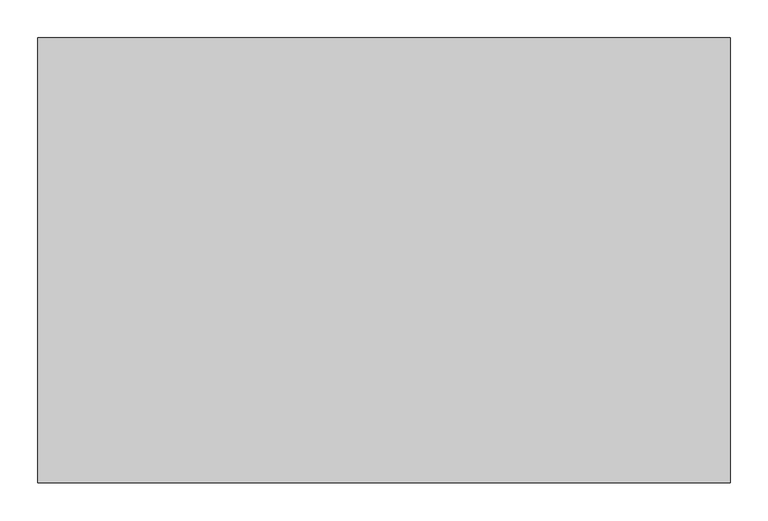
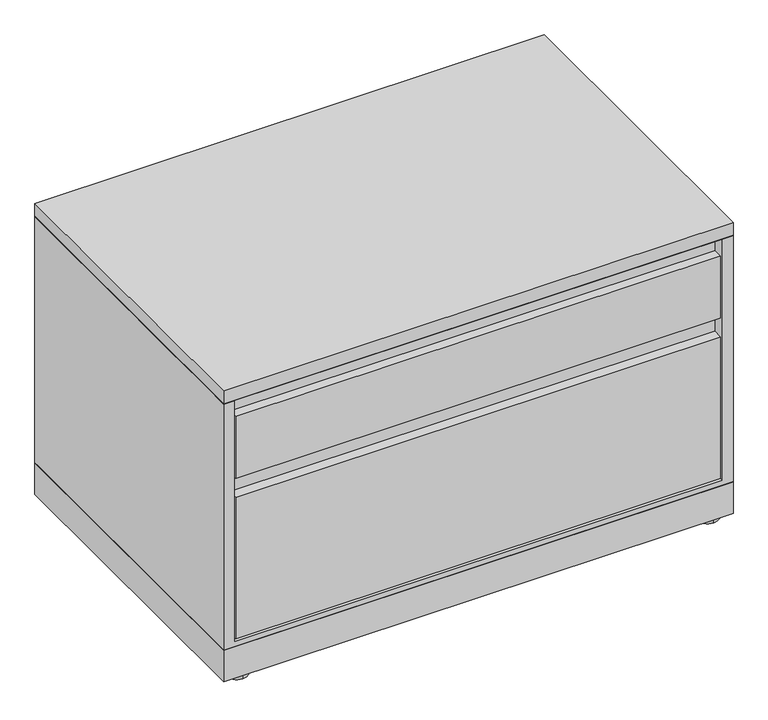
"""IFC4 building model written with IfcOpenShell, lengths in millimetres: furniture geometry, Steelcase - Universal Storage - Lateral File - 1.5 High - Flush Steel : Drawer/Drawer - 23 1/8D x 36W."""

from ifc_helpers import new_model, si_unit, point, frame, frame_2d, origin, origin_with_axes, place, context, project, spatial, polyline, circle_curve, trimmed, segment, composite_curve, outline, extrude, faceted_brep, source, transform, mapped, element, save


def furniture_e9a5312d(model_context):
    return source(origin(), model_context, "Body", "SolidModel", [
        extrude(outline(polyline([(914.4, 587.502), (914.4, 0.0), (0.0, 0.0), (0.0, 587.502), (914.4, 587.502)])), frame((0.0, 0.0, 6.3500002), z_axis=(0.0, 0.0, 1.0), x_axis=(1.0, 0.0, 0.0)), (0.0, 0.0, 1.0), 59.6899998),
        extrude(outline(composite_curve([segment(trimmed(circle_curve(frame_2d((879.7290058, 565.1653666)), 20.32), [point((879.7290058, 544.8453666))], [point((879.7290058, 585.4853666))], False, "CARTESIAN"), True, "CONTINUOUS"), segment(trimmed(circle_curve(frame_2d((879.7290058, 565.1653666)), 20.32), [point((879.7290058, 585.4853666))], [point((879.7290058, 544.8453666))], False, "CARTESIAN"), True, "CONTINUOUS")], self_intersect=False)), origin_with_axes(), (0.0, 0.0, 1.0), 6.3500002),
        extrude(outline(composite_curve([segment(trimmed(circle_curve(frame_2d((879.7290058, 20.7491455)), 20.32), [point((879.7290058, 0.4291455))], [point((879.7290058, 41.0691455))], False, "CARTESIAN"), True, "CONTINUOUS"), segment(trimmed(circle_curve(frame_2d((879.7290058, 20.7491455)), 20.32), [point((879.7290058, 41.0691455))], [point((879.7290058, 0.4291455))], False, "CARTESIAN"), True, "CONTINUOUS")], self_intersect=False)), origin_with_axes(), (0.0, 0.0, 1.0), 6.3500002),
        extrude(outline(composite_curve([segment(trimmed(circle_curve(frame_2d((34.29, 565.1653666)), 20.32), [point((34.29, 585.4853666))], [point((34.29, 544.8453666))], False, "CARTESIAN"), True, "CONTINUOUS"), segment(trimmed(circle_curve(frame_2d((34.29, 565.1653666)), 20.32), [point((34.29, 544.8453666))], [point((34.29, 585.4853666))], False, "CARTESIAN"), True, "CONTINUOUS")], self_intersect=False)), origin_with_axes(), (0.0, 0.0, 1.0), 6.3500002),
        extrude(outline(composite_curve([segment(trimmed(circle_curve(frame_2d((34.29, 20.7491455)), 20.32), [point((34.29, 41.0691455))], [point((34.29, 0.4291455))], False, "CARTESIAN"), True, "CONTINUOUS"), segment(trimmed(circle_curve(frame_2d((34.29, 20.7491455)), 20.32), [point((34.29, 0.4291455))], [point((34.29, 41.0691455))], False, "CARTESIAN"), True, "CONTINUOUS")], self_intersect=False)), origin_with_axes(), (0.0, 0.0, 1.0), 6.3500002),
        extrude(outline(polyline([(568.0964128, 396.7988176), (568.0964128, 410.7687861), (571.271412, 410.7687861), (571.271412, 371.5257963), (26.822418, 371.5257963), (26.822418, 396.7988176), (568.0964128, 396.7988176)])), frame((22.0472, 0.0, 0.0), z_axis=(1.0, 0.0, 0.0), x_axis=(0.0, 1.0, 0.0)), (0.0, 0.0, 1.0), 870.3056),
        extrude(outline(polyline([(1.45e-05, 534.0350121), (587.502, 534.0350121), (586.7399879, 533.273), (0.7620266, 533.273), (1.45e-05, 534.0350121)])), frame((0.0, 0.0, 0.0), z_axis=(1.0, 0.0, 0.0), x_axis=(0.0, 1.0, 0.0)), (0.0, 0.0, 1.0), 914.4),
        extrude(outline(polyline([(914.4, 587.502), (914.4, 0.0), (0.0, 0.0), (0.0, 587.502), (914.4, 587.502)])), frame((0.0, 0.0, 534.0350121), z_axis=(0.0, 0.0, 1.0), x_axis=(1.0, 0.0, 0.0)), (0.0, 0.0, 1.0), 24.6379729),
        faceted_brep([(914.4, 0.0, 66.04), (914.4, 587.502, 66.04), (914.4, 587.502, 533.273), (914.4, 0.0, 533.273), (0.0, 0.0, 533.273), (0.0, 587.502, 533.273), (0.0, 587.502, 66.04), (0.0, 0.0, 66.04), (895.35, 0.0, 533.273), (895.35, 0.0, 75.1586), (19.05, 0.0, 75.1586), (19.05, 0.0, 533.273), (19.05, 584.3269999, 533.273), (895.35, 584.3269999, 533.273), (19.05, 584.3269999, 75.1586), (895.35, 584.3269999, 75.1586)], [[[0, 1, 2, 3]], [[4, 5, 6, 7]], [[0, 3, 8, 9, 10, 11, 4, 7]], [[2, 1, 6, 5]], [[3, 2, 5, 4, 11, 12, 13, 8]], [[12, 14, 15, 13]], [[14, 12, 11, 10]], [[13, 15, 9, 8]], [[1, 0, 7, 6]], [[10, 9, 15, 14]]]),
        extrude(outline(polyline([(23.6541043, 79.2988025), (1.5178885, 79.2988025), (1.5178885, 348.1577823), (19.3741023, 348.1577823), (19.3741023, 378.7648167), (23.6541043, 378.7648167), (23.6541043, 79.2988025)])), frame((22.0472, 0.0, 0.0), z_axis=(1.0, 0.0, 0.0), x_axis=(0.0, 1.0, 0.0)), (0.0, 0.0, 1.0), 870.3056),
        extrude(outline(polyline([(23.6541043, 384.1241916), (1.5178885, 384.1241916), (1.5178885, 501.1928089), (19.3741023, 501.1928089), (19.3741023, 531.799807), (23.6541043, 531.799807), (23.6541043, 384.1241916)])), frame((22.0472, 0.0, 0.0), z_axis=(1.0, 0.0, 0.0), x_axis=(0.0, 1.0, 0.0)), (0.0, 0.0, 1.0), 870.3056),
    ])


if __name__ == "__main__":
    model = new_model("IFC4")
    model_context = context("Model", 3, world=origin())
    ifc_project = project(units=[si_unit("LENGTHUNIT", "METRE", prefix="MILLI")], contexts=[model_context])
    site = spatial("IfcSite", under=ifc_project)
    building = spatial("IfcBuilding", under=site)
    placement = place(None, origin())
    furniture_shape = furniture_e9a5312d(model_context)
    element("IfcFurniture", 1, ObjectType="Steelcase - Universal Storage - Lateral File - 1.5 High - Flush Steel : Drawer/Drawer - 23 1/8D x 36W", at=placement, inside=building, context=model_context, shape_type="MappedRepresentation", body=[
        mapped(furniture_shape, transform((0.0, 0.0, 0.0), x_axis=(1.0, 0.0, 0.0), y_axis=(0.0, 1.0, 0.0), z_axis=(0.0, 0.0, 1.0))),
    ])
    save(model, "model.ifc")
